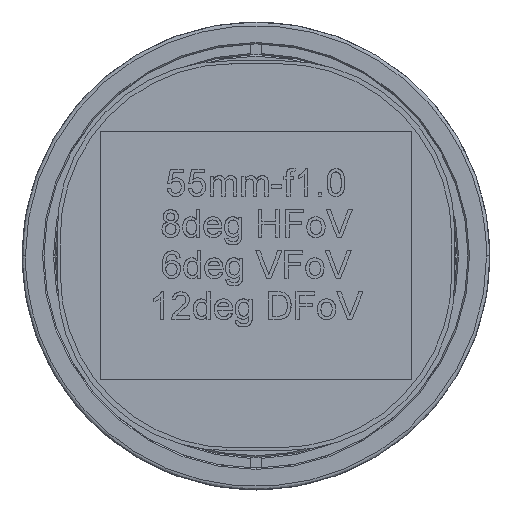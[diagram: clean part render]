
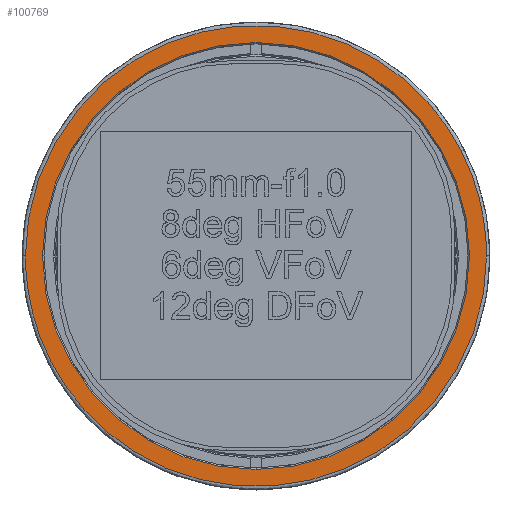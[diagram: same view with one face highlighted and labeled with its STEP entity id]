
A CAD part, top view. The second image highlights one B-rep face of the part: STEP entity #100769.
In plain terms, the highlighted planar face has unit normal (0, 0, 1).
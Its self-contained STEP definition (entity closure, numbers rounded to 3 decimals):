
#351 = PLANE ( 'NONE',  #141795 ) ;
#8517 = EDGE_LOOP ( 'NONE', ( #68807, #91640 ) ) ;
#9008 = CARTESIAN_POINT ( 'NONE',  ( -33.7, -67.4, 63.503 ) ) ;
#29327 = EDGE_LOOP ( 'NONE', ( #167648, #69315 ) ) ;
#29426 = EDGE_CURVE ( 'NONE', #110609, #116780, #117892, .T. ) ;
#30249 = DIRECTION ( 'NONE',  ( 0., 0., 1. ) ) ;
#34398 = CIRCLE ( 'NONE', #157035, 31.2 ) ;
#34913 = CARTESIAN_POINT ( 'NONE',  ( 33.7, 0., 63.503 ) ) ;
#37978 = CARTESIAN_POINT ( 'NONE',  ( -33.7, 0., 63.503 ) ) ;
#43983 = DIRECTION ( 'NONE',  ( -1., 0., 0. ) ) ;
#45783 = EDGE_CURVE ( 'NONE', #54546, #138419, #171547, .T. ) ;
#51090 = CARTESIAN_POINT ( 'NONE',  ( 33.7, 0., 63.503 ) ) ;
#54546 = VERTEX_POINT ( 'NONE', #63908 ) ;
#63122 = CARTESIAN_POINT ( 'NONE',  ( 33.7, 0., 63.503 ) ) ;
#63908 = CARTESIAN_POINT ( 'NONE',  ( 0., 31.2, 63.503 ) ) ;
#66869 = CARTESIAN_POINT ( 'NONE',  ( -33.7, 67.4, 63.503 ) ) ;
#67253 = EDGE_CURVE ( 'NONE', #138419, #54546, #34398, .T. ) ;
#68807 = ORIENTED_EDGE ( 'NONE', *, *, #29426, .F. ) ;
#69315 = ORIENTED_EDGE ( 'NONE', *, *, #45783, .F. ) ;
#74452 = CARTESIAN_POINT ( 'NONE',  ( -33.7, 0., 63.503 ) ) ;
#75558 = CARTESIAN_POINT ( 'NONE',  ( 33.7, -67.4, 63.503 ) ) ;
#83516 = FACE_OUTER_BOUND ( 'NONE', #8517, .T. ) ;
#84398 =( BOUNDED_CURVE ( )  B_SPLINE_CURVE ( 3, ( #34913, #75558, #9008, #177044 ),
 .UNSPECIFIED., .F., .F. ) 
 B_SPLINE_CURVE_WITH_KNOTS ( ( 4, 4 ),
 ( 0., 1. ),
 .UNSPECIFIED. ) 
 CURVE ( )  GEOMETRIC_REPRESENTATION_ITEM ( )  RATIONAL_B_SPLINE_CURVE ( ( 1., 0.333, 0.333, 1. ) ) 
 REPRESENTATION_ITEM ( '' )  );
#85635 = CARTESIAN_POINT ( 'NONE',  ( 0., 0., 63.503 ) ) ;
#91640 = ORIENTED_EDGE ( 'NONE', *, *, #169539, .F. ) ;
#93944 = CARTESIAN_POINT ( 'NONE',  ( 33.7, 67.4, 63.503 ) ) ;
#100769 = ADVANCED_FACE ( 'NONE', ( #83516, #169446 ), #351, .F. ) ;
#103088 = DIRECTION ( 'NONE',  ( 0., 0., 1. ) ) ;
#110609 = VERTEX_POINT ( 'NONE', #74452 ) ;
#116780 = VERTEX_POINT ( 'NONE', #51090 ) ;
#117892 =( BOUNDED_CURVE ( )  B_SPLINE_CURVE ( 3, ( #37978, #66869, #93944, #63122 ),
 .UNSPECIFIED., .F., .F. ) 
 B_SPLINE_CURVE_WITH_KNOTS ( ( 4, 4 ),
 ( 0., 1. ),
 .UNSPECIFIED. ) 
 CURVE ( )  GEOMETRIC_REPRESENTATION_ITEM ( )  RATIONAL_B_SPLINE_CURVE ( ( 1., 0.333, 0.333, 1. ) ) 
 REPRESENTATION_ITEM ( '' )  );
#136657 = CARTESIAN_POINT ( 'NONE',  ( 0., -31.2, 63.503 ) ) ;
#138419 = VERTEX_POINT ( 'NONE', #136657 ) ;
#140646 = CARTESIAN_POINT ( 'NONE',  ( 0., 34.2, 63.503 ) ) ;
#141239 = DIRECTION ( 'NONE',  ( 0., 0., -1. ) ) ;
#141795 = AXIS2_PLACEMENT_3D ( 'NONE', #140646, #141239, #43983 ) ;
#142882 = DIRECTION ( 'NONE',  ( 0., -1., 0. ) ) ;
#145578 = DIRECTION ( 'NONE',  ( 0., -1., 0. ) ) ;
#157035 = AXIS2_PLACEMENT_3D ( 'NONE', #175731, #103088, #145578 ) ;
#167648 = ORIENTED_EDGE ( 'NONE', *, *, #67253, .F. ) ;
#169446 = FACE_BOUND ( 'NONE', #29327, .T. ) ;
#169539 = EDGE_CURVE ( 'NONE', #116780, #110609, #84398, .T. ) ;
#171547 = CIRCLE ( 'NONE', #173968, 31.2 ) ;
#173968 = AXIS2_PLACEMENT_3D ( 'NONE', #85635, #30249, #142882 ) ;
#175731 = CARTESIAN_POINT ( 'NONE',  ( 0., 0., 63.503 ) ) ;
#177044 = CARTESIAN_POINT ( 'NONE',  ( -33.7, 0., 63.503 ) ) ;
